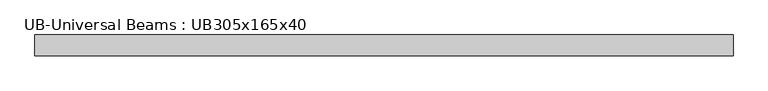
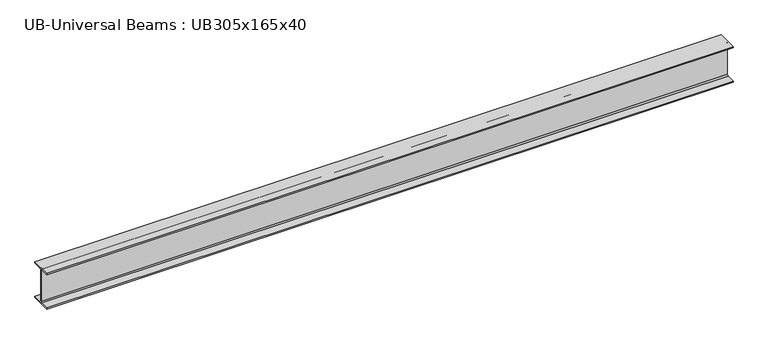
"""IFC4 building model written with IfcOpenShell, lengths in millimetres: beam geometry, UB-Universal Beams : UB305x165x40."""

from ifc_helpers import new_model, si_unit, point, frame, frame_2d, origin, place, context, project, spatial, polyline, circle_curve, trimmed, segment, composite_curve, outline, extrude, source, transform, mapped, element, save


def ub_universal_beams_ub305x165x40_bd95d4e6(model_context):
    return source(origin(), model_context, "Body", "SweptSolid", [
        extrude(outline(composite_curve([segment(polyline([(82.5, -141.5), (82.5, -151.7), (-82.5, -151.7), (-82.5, -141.5), (-11.9, -141.5)]), True, "CONTINUOUS"), segment(trimmed(circle_curve(frame_2d((-11.9, -132.6)), 8.9), [point((-11.9, -141.5))], [point((-3.0, -132.6))], True, "CARTESIAN"), True, "CONTINUOUS"), segment(polyline([(-3.0, -132.6), (-3.0, 132.6)]), True, "CONTINUOUS"), segment(trimmed(circle_curve(frame_2d((-11.9, 132.6)), 8.9), [point((-3.0, 132.6))], [point((-11.9, 141.5))], True, "CARTESIAN"), True, "CONTINUOUS"), segment(polyline([(-11.9, 141.5), (-82.5, 141.5), (-82.5, 151.7), (82.5, 151.7), (82.5, 141.5), (11.9, 141.5)]), True, "CONTINUOUS"), segment(trimmed(circle_curve(frame_2d((11.9, 132.6)), 8.9), [point((11.9, 141.5))], [point((3.0, 132.6))], True, "CARTESIAN"), True, "CONTINUOUS"), segment(polyline([(3.0, 132.6), (3.0, -132.6)]), True, "CONTINUOUS"), segment(trimmed(circle_curve(frame_2d((11.9, -132.6)), 8.9), [point((3.0, -132.6))], [point((11.9, -141.5))], True, "CARTESIAN"), True, "CONTINUOUS"), segment(polyline([(11.9, -141.5), (82.5, -141.5)]), True, "CONTINUOUS")], self_intersect=False)), frame((-2764.3, 0.0, 0.0), z_axis=(1.0, 0.0, 0.0), x_axis=(0.0, 1.0, 0.0)), (0.0, 0.0, 1.0), 5528.6),
    ])


if __name__ == "__main__":
    model = new_model("IFC4")
    model_context = context("Model", 3, world=origin())
    ifc_project = project(units=[si_unit("LENGTHUNIT", "METRE", prefix="MILLI")], contexts=[model_context])
    site = spatial("IfcSite", under=ifc_project)
    building = spatial("IfcBuilding", under=site)
    placement = place(None, origin())
    ub_universal_beams_ub305x165x40_shape = ub_universal_beams_ub305x165x40_bd95d4e6(model_context)
    element("IfcBeam", 1, ObjectType="UB-Universal Beams : UB305x165x40", at=placement, inside=building, context=model_context, shape_type="MappedRepresentation", body=[
        mapped(ub_universal_beams_ub305x165x40_shape, transform((0.0, 0.0, 0.0), x_axis=(1.0, 0.0, 0.0), y_axis=(0.0, 1.0, 0.0), z_axis=(0.0, 0.0, 1.0))),
    ])
    save(model, "model.ifc")
